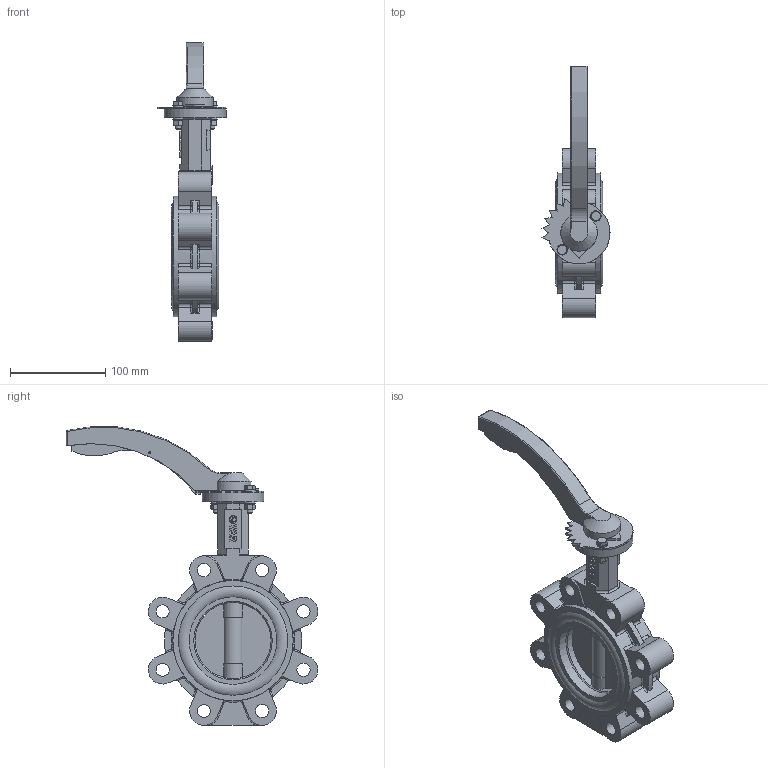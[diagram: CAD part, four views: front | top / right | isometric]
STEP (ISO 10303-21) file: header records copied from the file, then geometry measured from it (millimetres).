
FILE_DESCRIPTION(('STEP AP242'), '1');
FILE_NAME('Ïîâîðîòíûé çàòâîð ïîä ýëåêòðîïðèâîä', '', ('UNSPECIFIED'), ('UNSPECIFIED'), 'C3D Converter', 'C3D Toolkit', '');
FILE_SCHEMA(('AP242_MANAGED_MODEL_BASED_3D_ENGINEERING_MIM_LF { 1 0 10303 442 1 1 4 }'));
Length unit declared in the file: millimetre
Products named in the file (14): П
Assembly tree (20 placements, depth 3):
  (unnamed)
    (unnamed)
    П  x2
    (unnamed)
    (unnamed)
    (unnamed)
    (unnamed)
      (unnamed)
      (unnamed)
      (unnamed)
    (unnamed)  x2
    (unnamed)  x4
    (unnamed)  x2
    (unnamed)  x2
Bounding box: 71.39 x 263.9 x 313.61 mm (x, y, z)
Volume: 806683.6 mm3; surface area: 232417.7 mm2
Topology: 19 solids, 19 shells, 736 faces, 1857 edges, 1194 vertices
Faces by surface type: plane 322, cylinder 175, extrusion 153, torus 64, cone 18, bspline 2, sphere 2
Full cylindrical faces by diameter (mm): 2 x2, 3 x2, 4.917 x2, 6 x4, 6.6 x4, 7 x6, 8.223 x1, 11 x4, 13.835 x8, 14 x5, 15.4 x1, 19.799 x5, 21.66 x4, 22.627 x1, 65 x1, 80 x1, 82.4 x2, 92 x2, 103.333 x4, 114.667 x4, 126.347 x2
Entity records: 27632 total; most frequent: CARTESIAN_POINT 8674, ORIENTED_EDGE 3378, DIRECTION 2984, EDGE_CURVE 1689, VERTEX_POINT 1134, VECTOR 996, AXIS2_PLACEMENT_3D 994, EDGE_LOOP 849
